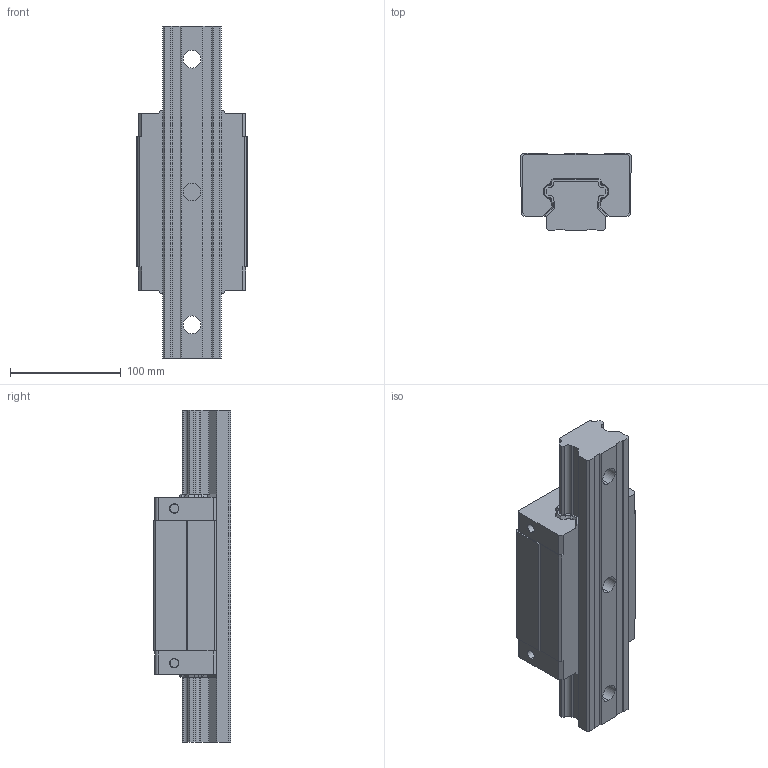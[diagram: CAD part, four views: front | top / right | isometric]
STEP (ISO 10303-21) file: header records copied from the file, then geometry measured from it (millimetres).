
FILE_DESCRIPTION (( 'STEP AP214' ), '1' );
FILE_NAME ('2.1037 Lineaarikelkka HGL55CA.STEP', '2025-09-19T06:35:47', ( '' ), ( '' ), 'SwSTEP 2.0', 'SolidWorks 2025', '' );
FILE_SCHEMA (( 'AUTOMOTIVE_DESIGN' ));
Length unit declared in the file: millimetre
Products named in the file (1): 2.1037 Lineaarikelkka HGL55CA
Bounding box: 100 x 70 x 300 mm (x, y, z)
Volume: 1229148.7 mm3; surface area: 145677 mm2
Topology: 2 solids, 2 shells, 179 faces, 492 edges, 328 vertices
Faces by surface type: plane 123, cylinder 36, cone 12, bspline 8
Entity records: 8007 total; most frequent: CARTESIAN_POINT 1412, ORIENTED_EDGE 984, DIRECTION 904, EDGE_CURVE 492, LINE 368, VECTOR 368, VERTEX_POINT 328, AXIS2_PLACEMENT_3D 268
